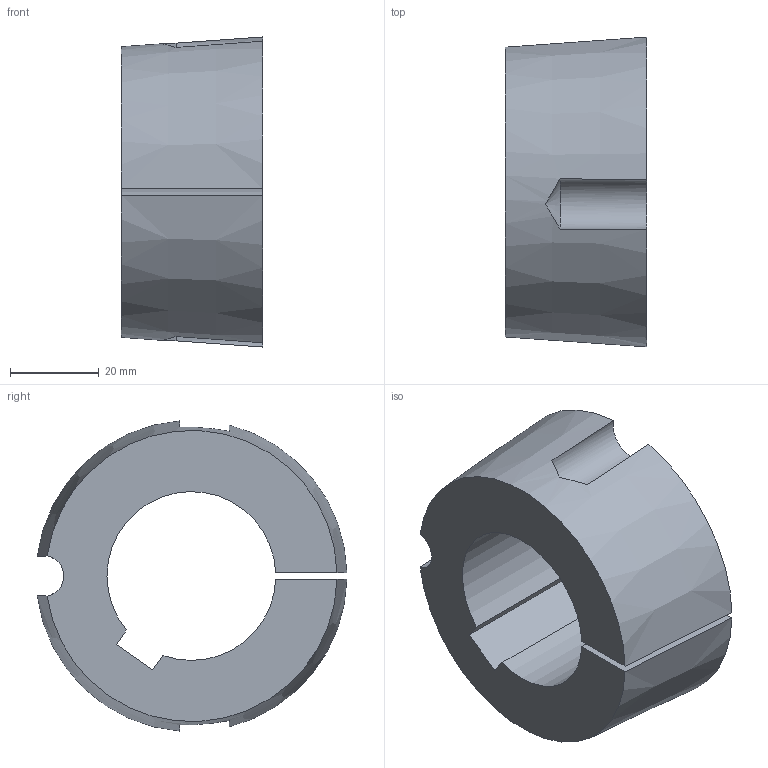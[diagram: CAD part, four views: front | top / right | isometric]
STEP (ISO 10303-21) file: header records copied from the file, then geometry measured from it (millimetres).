
FILE_DESCRIPTION( ( 'STEP AP203' ), '1' );
FILE_NAME( 'D:/export/antriebselemente/spannbuchsen_und_spannsaetze/taper-spannbuchsen_1008_bis_5050/taper-spannbuchsen_62250538Isometric_126.stp', '2018-12-11T11:11:13', ( '' ), ( '' ), ' ', 'PARTsolutions', ' ' );
FILE_SCHEMA( ( 'CONFIG_CONTROL_DESIGN' ) );
Length unit declared in the file: millimetre
Products named in the file (1): _taper-spannbuchsen_62250538
Bounding box: 31.8 x 69.72 x 69.81 mm (x, y, z)
Volume: 73281.1 mm3; surface area: 16861 mm2
Topology: 1 solids, 1 shells, 16 faces, 42 edges, 28 vertices
Faces by surface type: plane 7, cylinder 5, cone 4
Entity records: 618 total; most frequent: CARTESIAN_POINT 179, ORIENTED_EDGE 84, DIRECTION 82, EDGE_CURVE 42, AXIS2_PLACEMENT_3D 33, VERTEX_POINT 28, ADVANCED_FACE 16, FACE_OUTER_BOUND 16
